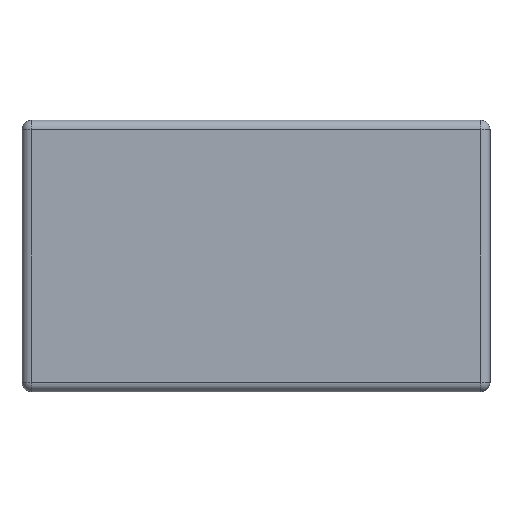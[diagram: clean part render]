
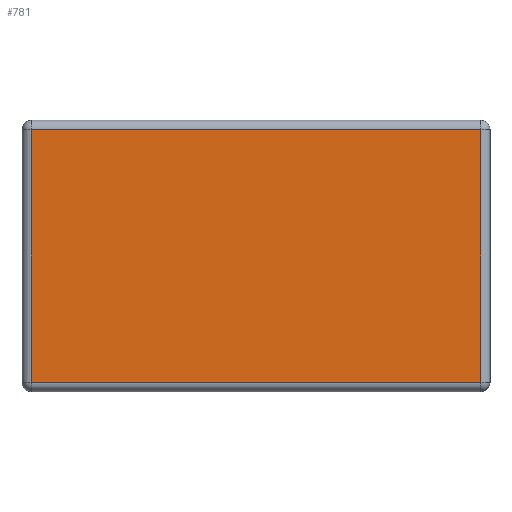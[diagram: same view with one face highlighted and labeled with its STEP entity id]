
A CAD part, front view. The second image highlights one B-rep face of the part: STEP entity #781.
In plain terms, the highlighted planar face has unit normal (0, -1, 0).
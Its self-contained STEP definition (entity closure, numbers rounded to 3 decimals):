
#49 = DIRECTION ( 'NONE',  ( 0., 0., 1. ) ) ;
#71 = VECTOR ( 'NONE', #492, 1000. ) ;
#95 = ORIENTED_EDGE ( 'NONE', *, *, #127, .T. ) ;
#127 = EDGE_CURVE ( 'NONE', #685, #1032, #1190, .T. ) ;
#180 = VERTEX_POINT ( 'NONE', #413 ) ;
#193 = CARTESIAN_POINT ( 'NONE',  ( 9.6, 0., 5.4 ) ) ;
#233 = ORIENTED_EDGE ( 'NONE', *, *, #842, .T. ) ;
#275 = CARTESIAN_POINT ( 'NONE',  ( 10., 0., 5.8 ) ) ;
#323 = EDGE_CURVE ( 'NONE', #180, #392, #625, .T. ) ;
#349 = CARTESIAN_POINT ( 'NONE',  ( 10., 0., 5.4 ) ) ;
#372 = CARTESIAN_POINT ( 'NONE',  ( -9.6, 0., -5.4 ) ) ;
#392 = VERTEX_POINT ( 'NONE', #193 ) ;
#413 = CARTESIAN_POINT ( 'NONE',  ( 9.6, 0., -5.4 ) ) ;
#466 = CARTESIAN_POINT ( 'NONE',  ( -9.6, 0., 5.8 ) ) ;
#475 = LINE ( 'NONE', #894, #563 ) ;
#492 = DIRECTION ( 'NONE',  ( 0., 0., 1. ) ) ;
#563 = VECTOR ( 'NONE', #881, 1000. ) ;
#569 = VECTOR ( 'NONE', #676, 1000. ) ;
#625 = LINE ( 'NONE', #1050, #71 ) ;
#676 = DIRECTION ( 'NONE',  ( 0., 0., -1. ) ) ;
#680 = LINE ( 'NONE', #349, #802 ) ;
#685 = VERTEX_POINT ( 'NONE', #768 ) ;
#694 = EDGE_CURVE ( 'NONE', #392, #685, #680, .T. ) ;
#768 = CARTESIAN_POINT ( 'NONE',  ( -9.6, 0., 5.4 ) ) ;
#781 = ADVANCED_FACE ( 'NONE', ( #1300 ), #895, .F. ) ;
#802 = VECTOR ( 'NONE', #1073, 1000. ) ;
#842 = EDGE_CURVE ( 'NONE', #1032, #180, #475, .T. ) ;
#865 = ORIENTED_EDGE ( 'NONE', *, *, #694, .T. ) ;
#881 = DIRECTION ( 'NONE',  ( 1., 0., 0. ) ) ;
#894 = CARTESIAN_POINT ( 'NONE',  ( 10., 0., -5.4 ) ) ;
#895 = PLANE ( 'NONE',  #1229 ) ;
#929 = ORIENTED_EDGE ( 'NONE', *, *, #323, .T. ) ;
#964 = EDGE_LOOP ( 'NONE', ( #95, #233, #929, #865 ) ) ;
#1000 = DIRECTION ( 'NONE',  ( 0., 1., 0. ) ) ;
#1032 = VERTEX_POINT ( 'NONE', #372 ) ;
#1050 = CARTESIAN_POINT ( 'NONE',  ( 9.6, 0., 5.8 ) ) ;
#1073 = DIRECTION ( 'NONE',  ( -1., 0., 0. ) ) ;
#1190 = LINE ( 'NONE', #466, #569 ) ;
#1229 = AXIS2_PLACEMENT_3D ( 'NONE', #275, #1000, #49 ) ;
#1300 = FACE_OUTER_BOUND ( 'NONE', #964, .T. ) ;
